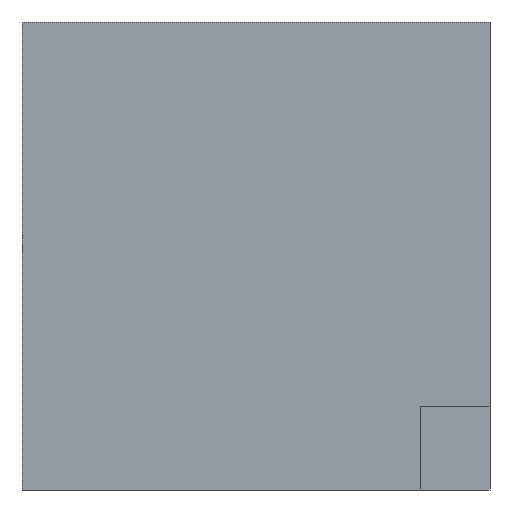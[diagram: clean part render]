
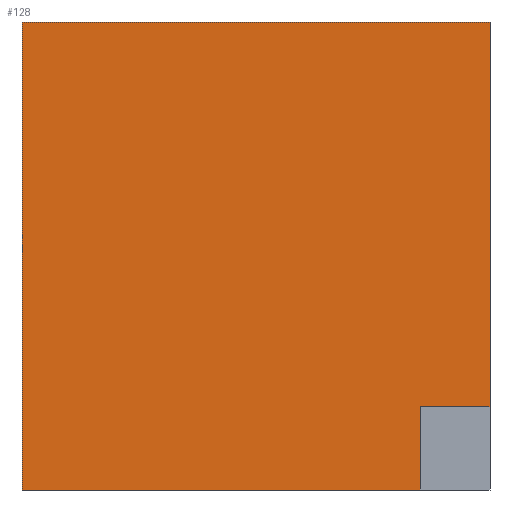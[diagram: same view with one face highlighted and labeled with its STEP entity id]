
A CAD part, left-side view. The second image highlights one B-rep face of the part: STEP entity #128.
In plain terms, the highlighted planar face has unit normal (-1, 0, 0).
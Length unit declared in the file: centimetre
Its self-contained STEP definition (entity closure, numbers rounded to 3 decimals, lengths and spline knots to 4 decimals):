
#16 = CARTESIAN_POINT ( 'NONE',  ( 0., 0., 1000. ) ) ;
#25 = ORIENTED_EDGE ( 'NONE', *, *, #76, .F. ) ;
#46 = CARTESIAN_POINT ( 'NONE',  ( 0., 149.208, 177.5337 ) ) ;
#66 = ORIENTED_EDGE ( 'NONE', *, *, #307, .T. ) ;
#68 = VERTEX_POINT ( 'NONE', #123 ) ;
#74 = CARTESIAN_POINT ( 'NONE',  ( 0., 1000., 1000. ) ) ;
#75 = DIRECTION ( 'NONE',  ( 0., 1., 0. ) ) ;
#76 = EDGE_CURVE ( 'NONE', #203, #282, #83, .T. ) ;
#83 = LINE ( 'NONE', #126, #348 ) ;
#112 = VECTOR ( 'NONE', #338, 100. ) ;
#113 = PLANE ( 'NONE',  #254 ) ;
#123 = CARTESIAN_POINT ( 'NONE',  ( 0., 1000., 1000. ) ) ;
#126 = CARTESIAN_POINT ( 'NONE',  ( 0., 0., 177.5337 ) ) ;
#128 = ADVANCED_FACE ( 'NONE', ( #303 ), #113, .F. ) ;
#167 = LINE ( 'NONE', #74, #296 ) ;
#176 = VERTEX_POINT ( 'NONE', #195 ) ;
#178 = CARTESIAN_POINT ( 'NONE',  ( 0., 1000., 0. ) ) ;
#193 = CARTESIAN_POINT ( 'NONE',  ( 0., 0., 177.5337 ) ) ;
#195 = CARTESIAN_POINT ( 'NONE',  ( 0., 149.208, 0. ) ) ;
#203 = VERTEX_POINT ( 'NONE', #193 ) ;
#205 = ORIENTED_EDGE ( 'NONE', *, *, #460, .F. ) ;
#212 = ORIENTED_EDGE ( 'NONE', *, *, #399, .F. ) ;
#216 = VECTOR ( 'NONE', #316, 100. ) ;
#219 = LINE ( 'NONE', #471, #216 ) ;
#242 = LINE ( 'NONE', #178, #431 ) ;
#243 = ORIENTED_EDGE ( 'NONE', *, *, #386, .F. ) ;
#250 = DIRECTION ( 'NONE',  ( 1., 0., 0. ) ) ;
#254 = AXIS2_PLACEMENT_3D ( 'NONE', #256, #250, #327 ) ;
#256 = CARTESIAN_POINT ( 'NONE',  ( 0., 1000., 1000. ) ) ;
#270 = DIRECTION ( 'NONE',  ( 0., 0., -1. ) ) ;
#276 = VECTOR ( 'NONE', #270, 100. ) ;
#282 = VERTEX_POINT ( 'NONE', #46 ) ;
#290 = LINE ( 'NONE', #378, #112 ) ;
#296 = VECTOR ( 'NONE', #329, 100. ) ;
#303 = FACE_OUTER_BOUND ( 'NONE', #317, .T. ) ;
#307 = EDGE_CURVE ( 'NONE', #68, #391, #290, .T. ) ;
#316 = DIRECTION ( 'NONE',  ( 0., 0., -1. ) ) ;
#317 = EDGE_LOOP ( 'NONE', ( #388, #205, #25, #243, #212, #66 ) ) ;
#327 = DIRECTION ( 'NONE',  ( 0., 0., -1. ) ) ;
#329 = DIRECTION ( 'NONE',  ( 0., -1., 0. ) ) ;
#336 = VERTEX_POINT ( 'NONE', #454 ) ;
#338 = DIRECTION ( 'NONE',  ( 0., 0., -1. ) ) ;
#348 = VECTOR ( 'NONE', #75, 100. ) ;
#378 = CARTESIAN_POINT ( 'NONE',  ( 0., 1000., 1000. ) ) ;
#386 = EDGE_CURVE ( 'NONE', #336, #203, #444, .T. ) ;
#388 = ORIENTED_EDGE ( 'NONE', *, *, #439, .T. ) ;
#391 = VERTEX_POINT ( 'NONE', #424 ) ;
#399 = EDGE_CURVE ( 'NONE', #68, #336, #167, .T. ) ;
#411 = DIRECTION ( 'NONE',  ( 0., -1., 0. ) ) ;
#424 = CARTESIAN_POINT ( 'NONE',  ( 0., 1000., 0. ) ) ;
#431 = VECTOR ( 'NONE', #411, 100. ) ;
#439 = EDGE_CURVE ( 'NONE', #391, #176, #242, .T. ) ;
#444 = LINE ( 'NONE', #16, #276 ) ;
#454 = CARTESIAN_POINT ( 'NONE',  ( 0., 0., 1000. ) ) ;
#460 = EDGE_CURVE ( 'NONE', #282, #176, #219, .T. ) ;
#471 = CARTESIAN_POINT ( 'NONE',  ( 0., 149.208, 0. ) ) ;
